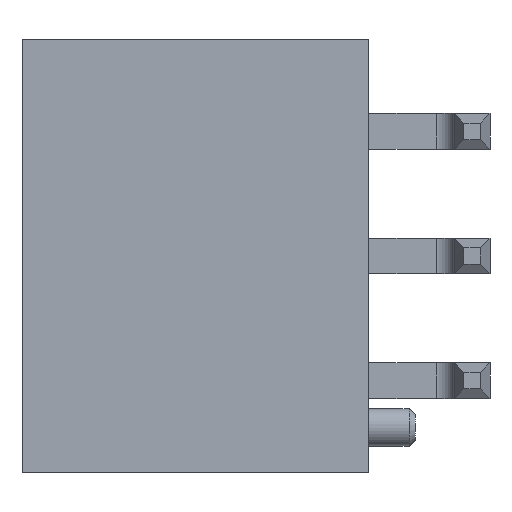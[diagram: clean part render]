
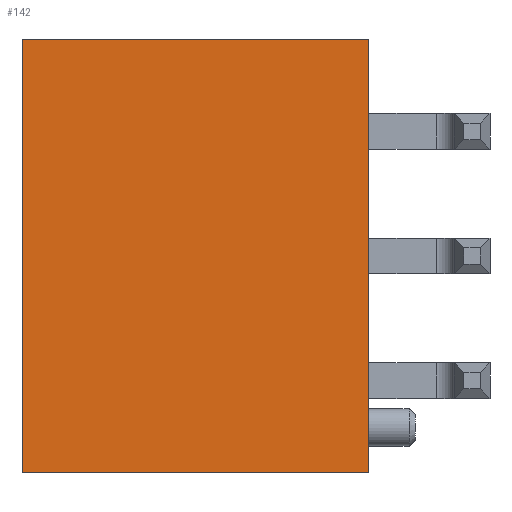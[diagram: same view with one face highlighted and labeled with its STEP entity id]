
A CAD part, left-side view. The second image highlights one B-rep face of the part: STEP entity #142.
In plain terms, the highlighted planar face has unit normal (-1, 0, 0).
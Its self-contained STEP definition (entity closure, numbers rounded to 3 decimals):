
#142 = ADVANCED_FACE ( 'NONE', ( #2684 ), #3008, .F. ) ;
#403 = CARTESIAN_POINT ( 'NONE',  ( -3.7, 8.139, 12.82 ) ) ;
#445 = VECTOR ( 'NONE', #777, 1000. ) ;
#611 = ORIENTED_EDGE ( 'NONE', *, *, #1481, .F. ) ;
#616 = DIRECTION ( 'NONE',  ( 0., -1., 0. ) ) ;
#777 = DIRECTION ( 'NONE',  ( 0., 0., -1. ) ) ;
#797 = DIRECTION ( 'NONE',  ( 1., 0., 0. ) ) ;
#818 = CARTESIAN_POINT ( 'NONE',  ( -3.7, 8.139, 0.94 ) ) ;
#1087 = VERTEX_POINT ( 'NONE', #2287 ) ;
#1128 = LINE ( 'NONE', #3048, #4644 ) ;
#1423 = VERTEX_POINT ( 'NONE', #2091 ) ;
#1454 = VECTOR ( 'NONE', #616, 1000. ) ;
#1481 = EDGE_CURVE ( 'NONE', #1087, #1423, #1128, .T. ) ;
#1621 = LINE ( 'NONE', #403, #445 ) ;
#1988 = DIRECTION ( 'NONE',  ( 0., 0., -1. ) ) ;
#2001 = VERTEX_POINT ( 'NONE', #4221 ) ;
#2006 = DIRECTION ( 'NONE',  ( 0., -1., 0. ) ) ;
#2091 = CARTESIAN_POINT ( 'NONE',  ( -3.7, -2.861, -12.82 ) ) ;
#2264 = DIRECTION ( 'NONE',  ( 0., 1., 0. ) ) ;
#2287 = CARTESIAN_POINT ( 'NONE',  ( -3.7, -2.861, 0.94 ) ) ;
#2423 = LINE ( 'NONE', #2444, #3845 ) ;
#2444 = CARTESIAN_POINT ( 'NONE',  ( -3.7, 8.139, 0.94 ) ) ;
#2539 = ORIENTED_EDGE ( 'NONE', *, *, #4924, .T. ) ;
#2589 = EDGE_LOOP ( 'NONE', ( #611, #4722, #2539, #3993 ) ) ;
#2593 = CARTESIAN_POINT ( 'NONE',  ( -3.7, 8.139, -12.82 ) ) ;
#2684 = FACE_OUTER_BOUND ( 'NONE', #2589, .T. ) ;
#3008 = PLANE ( 'NONE',  #4754 ) ;
#3048 = CARTESIAN_POINT ( 'NONE',  ( -3.7, -2.861, 12.82 ) ) ;
#3522 = EDGE_CURVE ( 'NONE', #2001, #1423, #4498, .T. ) ;
#3713 = EDGE_CURVE ( 'NONE', #3967, #1087, #2423, .T. ) ;
#3845 = VECTOR ( 'NONE', #2006, 1000. ) ;
#3967 = VERTEX_POINT ( 'NONE', #818 ) ;
#3993 = ORIENTED_EDGE ( 'NONE', *, *, #3522, .T. ) ;
#4211 = CARTESIAN_POINT ( 'NONE',  ( -3.7, 8.139, 12.82 ) ) ;
#4221 = CARTESIAN_POINT ( 'NONE',  ( -3.7, 8.139, -12.82 ) ) ;
#4498 = LINE ( 'NONE', #2593, #1454 ) ;
#4644 = VECTOR ( 'NONE', #1988, 1000. ) ;
#4722 = ORIENTED_EDGE ( 'NONE', *, *, #3713, .F. ) ;
#4754 = AXIS2_PLACEMENT_3D ( 'NONE', #4211, #797, #2264 ) ;
#4924 = EDGE_CURVE ( 'NONE', #3967, #2001, #1621, .T. ) ;
